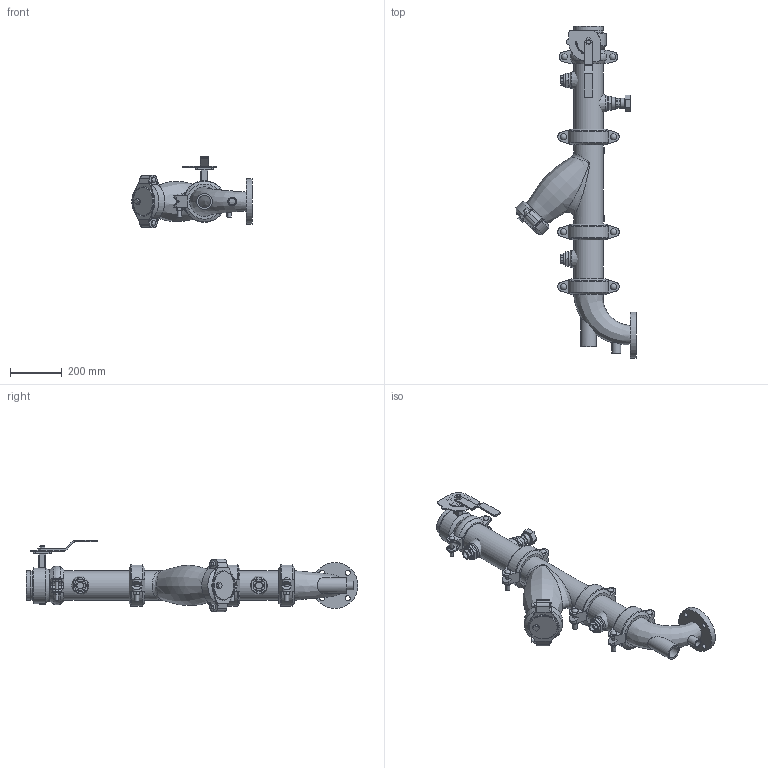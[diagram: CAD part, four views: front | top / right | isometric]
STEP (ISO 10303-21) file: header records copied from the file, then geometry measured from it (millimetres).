
FILE_DESCRIPTION(/* description */ ('VIC SVI PUMP DROP HORZ S/382 (OGSxFLG) (S/924-1.25)','CAx-IF Rec.Pracs.---Representation and Presentation of Product Manufacturing Information (PMI)---4.0---2014-10-13'),/* implementation_level */ '2;1');
FILE_NAME(/* name */ 'C:\Users\Vjadhav\AppData\Roaming\Autodesk\ApplicationPlugins\Victaulic.Temp\A562\Victaulic_IPS_Horizontal SVI_CL 150_Series 382 (OGSxFLG)_924 (1.25)_04.0x02.5 (100x65).stp',/* time_stamp */ '2022-02-28T19:57:28+05:00',/* author */ ('kkamble'),/* organization */ ('Victaulic'),/* preprocessor_version */ 'ST-DEVELOPER v17.2',/* originating_system */ 'Autodesk Inventor 2019',/* authorisation */ '');
FILE_SCHEMA (('AP242_MANAGED_MODEL_BASED_3D_ENGINEERING_MIM_LF { 1 0 10303 442 1 1 4 }'));
Length unit declared in the file: inch
Products named in the file (13): 382_924 (1.25)-04.0x02.5; PIPE-04.0; 107N-04.0; 732-04.0; 732-04.0_1; 07-04.0; 732-04.0_2; PIPE-04.0x02.0; 761-04.0; 924-04.0x01.25; 177N-04.0; 923-04.0x0.75; R100F-04.0x02.5
Assembly tree (15 placements, depth 3):
  382_924 (1.25)-04.0x02.5
    PIPE-04.0
    107N-04.0
    732-04.0
      732-04.0_1
      07-04.0
      732-04.0_2
    177N-04.0  x3
    PIPE-04.0x02.0
    761-04.0
    924-04.0x01.25
    923-04.0x0.75  x2
    R100F-04.0x02.5
Bounding box: 464.88 x 1285.88 x 276.13 mm (x, y, z)
Volume: 7966319.3 mm3; surface area: 1791186.4 mm2
Topology: 14 solids, 18 shells, 872 faces, 2260 edges, 1509 vertices
Faces by surface type: plane 493, cylinder 288, torus 28, cone 27, bspline 26, sphere 10
Full cylindrical faces by diameter (mm): 4.826 x10, 8.636 x4, 12.7 x8, 14.986 x2, 15.875 x6, 19.05 x4, 21.336 x1, 22.225 x4, 22.86 x1, 23.495 x6, 25.4 x3, 26.67 x4, 34.29 x1, 38.608 x1, 42.164 x1, 45.974 x6, 48.26 x1, 48.514 x1, 55.118 x1, 55.626 x3, 60.96 x1, 62.713 x1, 95.25 x1, 98.831 x1, 99.06 x1, 101.6 x4, 102.26 x4, 107.95 x1, 110.084 x11, 114.3 x26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
Entity records: 25197 total; most frequent: CARTESIAN_POINT 8026, DIRECTION 3488, ORIENTED_EDGE 3260, EDGE_CURVE 1630, AXIS2_PLACEMENT_3D 1320, VERTEX_POINT 1095, LINE 848, VECTOR 848
